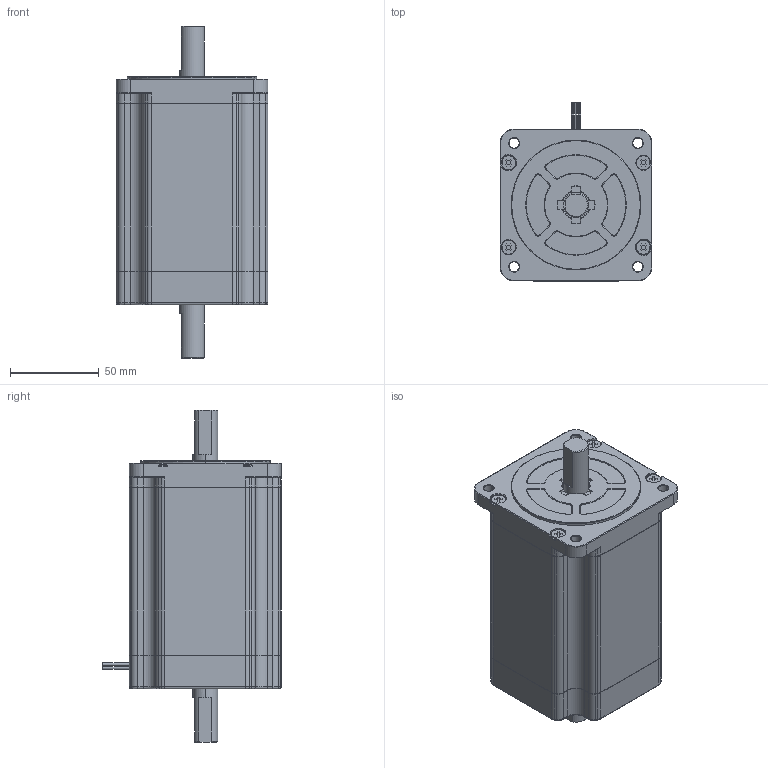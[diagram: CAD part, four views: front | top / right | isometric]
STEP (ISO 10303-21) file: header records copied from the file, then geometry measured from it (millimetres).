
FILE_DESCRIPTION (( 'STEP AP203' ), '1' );
FILE_NAME ('SH2863-0411.STEP', '2012-06-27T07:41:57', ( 'sanyodenki-admin' ), ( '' ), 'SwSTEP 2.0', 'SolidWorks 2011', '' );
FILE_SCHEMA (( 'CONFIG_CONTROL_DESIGN' ));
Length unit declared in the file: millimetre
Products named in the file (1): SH2863-0411
Bounding box: 85.5 x 100.5 x 186.9 mm (x, y, z)
Volume: 835948.6 mm3; surface area: 58530.9 mm2
Topology: 1 solids, 1 shells, 680 faces, 1691 edges, 1034 vertices
Faces by surface type: cylinder 248, plane 229, cone 143, torus 60
Entity records: 20256 total; most frequent: DIRECTION 3781, CARTESIAN_POINT 3478, ORIENTED_EDGE 3382, EDGE_CURVE 1691, AXIS2_PLACEMENT_3D 1433, VERTEX_POINT 1034, VECTOR 915, LINE 915
